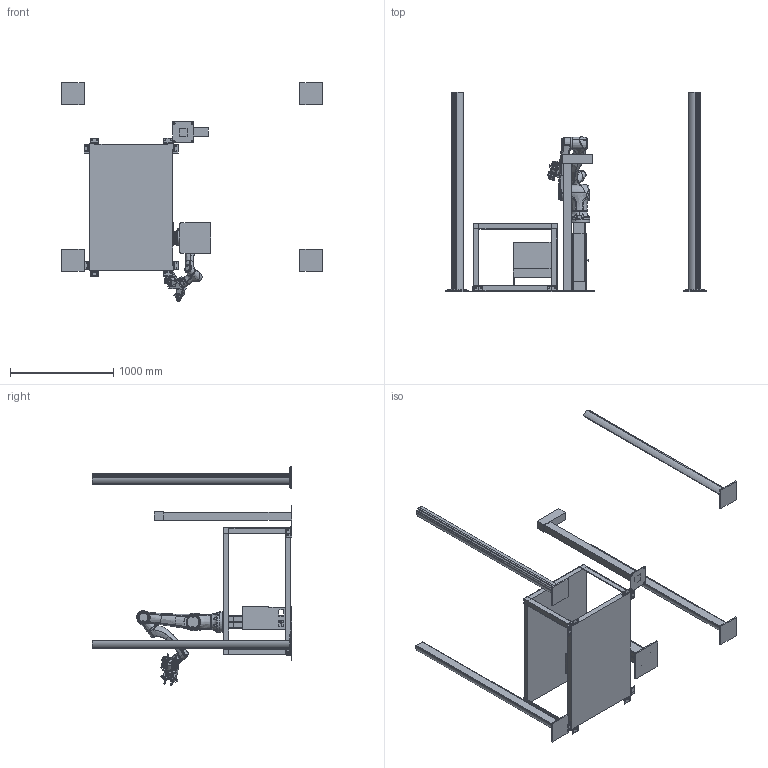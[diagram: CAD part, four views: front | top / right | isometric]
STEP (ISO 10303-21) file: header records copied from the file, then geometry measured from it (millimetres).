
FILE_DESCRIPTION (( 'STEP AP203' ), '1' );
FILE_NAME ('HC10_5_2025.STEP', '2025-05-10T00:58:21', ( '' ), ( '' ), 'SwSTEP 2.0', 'SolidWorks 2023', '' );
FILE_SCHEMA (( 'CONFIG_CONTROL_DESIGN' ));
Length unit declared in the file: inch
Products named in the file (24): HC10-Stand Extension 36; HC10-Control Box; HC10-Part Flipping Station; HC10-Joint 3; HC10-Joint 5; HC10-Joint 4; HC10-End Effector; HC10-Light Curtain Kit; HC10_5_2025; HC10-Joint 2; HC10- 09-0982 Dual Gripper Fingers; HC10-Single Gripper Plates; HC10-Joint 6; HC10-Stand 24in; HC10-Joint 1; HC10-Stand Pin; HC10-Parts Table; HC10- 09-0613A Dual Gripper Plates; HC10- 09-0982 Dual Gripper Assembly; HC10-Single Gripper Fingers; HC10- 09-0982 Dual Gripper Plates; HC10- 09-0613A Dual Gripper Assembly; HC10- 09-0613A Dual Gripper Fingers; HC10-Single Gripper Assembly
Assembly tree (23 placements, depth 2):
  HC10_5_2025
    HC10-Stand Pin
    HC10-Control Box
    HC10-Joint 1
    HC10-Joint 2
    HC10-Joint 3
    HC10-Joint 4
    HC10-Joint 5
    HC10-Joint 6
    HC10-End Effector
    HC10-Stand 24in
    HC10-Stand Extension 36
    HC10-Parts Table
    HC10-Part Flipping Station
    HC10-Light Curtain Kit
    HC10-Single Gripper Assembly
    HC10-Single Gripper Plates
    HC10-Single Gripper Fingers
    HC10- 09-0613A Dual Gripper Assembly
    HC10- 09-0613A Dual Gripper Fingers
    HC10- 09-0613A Dual Gripper Plates
    HC10- 09-0982 Dual Gripper Assembly
    HC10- 09-0982 Dual Gripper Fingers
    HC10- 09-0982 Dual Gripper Plates
Bounding box: 2520.95 x 1930.7 x 2119.11 mm (x, y, z)
Volume: 221203135.6 mm3; surface area: 13739441.5 mm2
Topology: 58 solids, 68 shells, 4028 faces, 10525 edges, 6775 vertices
Faces by surface type: cylinder 1594, plane 1551, bspline 536, cone 217, torus 130
Entity records: 250349 total; most frequent: CARTESIAN_POINT 148959, ORIENTED_EDGE 21012, DIRECTION 19962, EDGE_CURVE 10506, AXIS2_PLACEMENT_3D 7417, VERTEX_POINT 6775, LINE 5128, VECTOR 5128
